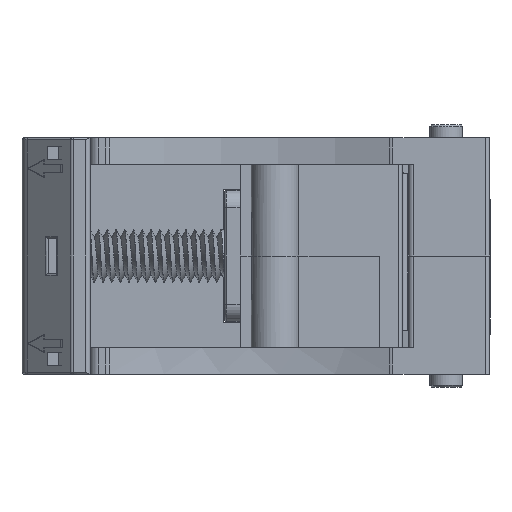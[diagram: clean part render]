
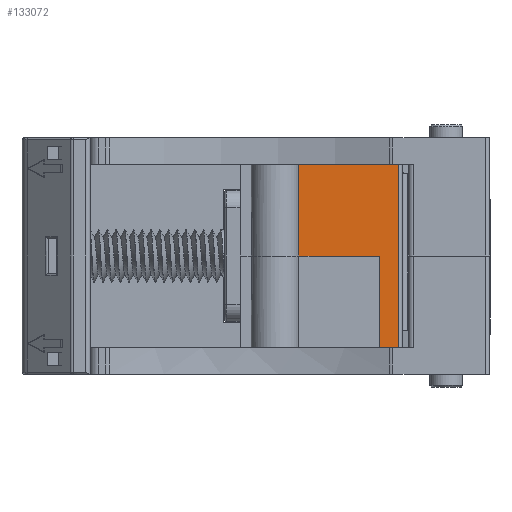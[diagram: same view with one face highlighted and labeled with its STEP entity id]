
A CAD part, left-side view. The second image highlights one B-rep face of the part: STEP entity #133072.
In plain terms, the highlighted planar face has unit normal (-1, 0, 0).
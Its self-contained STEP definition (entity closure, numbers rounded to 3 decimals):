
#133072 = ADVANCED_FACE('',(#133073),#133087,.T.);
#133073 = FACE_BOUND('',#133074,.T.);
#133074 = EDGE_LOOP('',(#133075,#133098,#133114,#133130,#133146,#133162,
    #133178,#133194));
#133075 = ORIENTED_EDGE('',*,*,#133076,.F.);
#133076 = EDGE_CURVE('',#133077,#133079,#133081,.T.);
#133077 = VERTEX_POINT('',#133078);
#133078 = CARTESIAN_POINT('',(-37.411,-0.175,109.5)
  );
#133079 = VERTEX_POINT('',#133080);
#133080 = CARTESIAN_POINT('',(-37.411,-0.175,121.5)
  );
#133081 = SURFACE_CURVE('',#133082,(#133086),.PCURVE_S1.);
#133082 = LINE('',#133083,#133084);
#133083 = CARTESIAN_POINT('',(-37.411,-0.175,109.5)
  );
#133084 = VECTOR('',#133085,1.);
#133085 = DIRECTION('',(0.,0.,1.));
#133086 = PCURVE('',#133087,#133092);
#133087 = PLANE('',#133088);
#133088 = AXIS2_PLACEMENT_3D('',#133089,#133090,#133091);
#133089 = CARTESIAN_POINT('',(-37.411,3.179,109.5)
  );
#133090 = DIRECTION('',(-1.,0.,0.));
#133091 = DIRECTION('',(0.,-1.,0.));
#133092 = DEFINITIONAL_REPRESENTATION('',(#133093),#133097);
#133093 = LINE('',#133094,#133095);
#133094 = CARTESIAN_POINT('',(3.354,0.));
#133095 = VECTOR('',#133096,1.);
#133096 = DIRECTION('',(0.,1.));
#133097 = ( GEOMETRIC_REPRESENTATION_CONTEXT(2) 
PARAMETRIC_REPRESENTATION_CONTEXT() REPRESENTATION_CONTEXT('2D SPACE',''
  ) );
#133098 = ORIENTED_EDGE('',*,*,#133099,.T.);
#133099 = EDGE_CURVE('',#133077,#133100,#133102,.T.);
#133100 = VERTEX_POINT('',#133101);
#133101 = CARTESIAN_POINT('',(-37.411,-9.421,109.5)
  );
#133102 = SURFACE_CURVE('',#133103,(#133107),.PCURVE_S1.);
#133103 = LINE('',#133104,#133105);
#133104 = CARTESIAN_POINT('',(-37.411,3.179,109.5)
  );
#133105 = VECTOR('',#133106,1.);
#133106 = DIRECTION('',(0.,-1.,0.));
#133107 = PCURVE('',#133087,#133108);
#133108 = DEFINITIONAL_REPRESENTATION('',(#133109),#133113);
#133109 = LINE('',#133110,#133111);
#133110 = CARTESIAN_POINT('',(0.,0.));
#133111 = VECTOR('',#133112,1.);
#133112 = DIRECTION('',(1.,0.));
#133113 = ( GEOMETRIC_REPRESENTATION_CONTEXT(2) 
PARAMETRIC_REPRESENTATION_CONTEXT() REPRESENTATION_CONTEXT('2D SPACE',''
  ) );
#133114 = ORIENTED_EDGE('',*,*,#133115,.F.);
#133115 = EDGE_CURVE('',#133116,#133100,#133118,.T.);
#133116 = VERTEX_POINT('',#133117);
#133117 = CARTESIAN_POINT('',(-37.411,-9.421,
    98.));
#133118 = SURFACE_CURVE('',#133119,(#133123),.PCURVE_S1.);
#133119 = LINE('',#133120,#133121);
#133120 = CARTESIAN_POINT('',(-37.411,-9.421,97.5)
  );
#133121 = VECTOR('',#133122,1.);
#133122 = DIRECTION('',(0.,0.,1.));
#133123 = PCURVE('',#133087,#133124);
#133124 = DEFINITIONAL_REPRESENTATION('',(#133125),#133129);
#133125 = LINE('',#133126,#133127);
#133126 = CARTESIAN_POINT('',(12.6,-12.));
#133127 = VECTOR('',#133128,1.);
#133128 = DIRECTION('',(0.,1.));
#133129 = ( GEOMETRIC_REPRESENTATION_CONTEXT(2) 
PARAMETRIC_REPRESENTATION_CONTEXT() REPRESENTATION_CONTEXT('2D SPACE',''
  ) );
#133130 = ORIENTED_EDGE('',*,*,#133131,.T.);
#133131 = EDGE_CURVE('',#133116,#133132,#133134,.T.);
#133132 = VERTEX_POINT('',#133133);
#133133 = CARTESIAN_POINT('',(-37.411,-11.521,
    98.));
#133134 = SURFACE_CURVE('',#133135,(#133139),.PCURVE_S1.);
#133135 = LINE('',#133136,#133137);
#133136 = CARTESIAN_POINT('',(-37.411,3.179,
    98.));
#133137 = VECTOR('',#133138,1.);
#133138 = DIRECTION('',(0.,-1.,0.));
#133139 = PCURVE('',#133087,#133140);
#133140 = DEFINITIONAL_REPRESENTATION('',(#133141),#133145);
#133141 = LINE('',#133142,#133143);
#133142 = CARTESIAN_POINT('',(0.,-11.5));
#133143 = VECTOR('',#133144,1.);
#133144 = DIRECTION('',(1.,0.));
#133145 = ( GEOMETRIC_REPRESENTATION_CONTEXT(2) 
PARAMETRIC_REPRESENTATION_CONTEXT() REPRESENTATION_CONTEXT('2D SPACE',''
  ) );
#133146 = ORIENTED_EDGE('',*,*,#133147,.T.);
#133147 = EDGE_CURVE('',#133132,#133148,#133150,.T.);
#133148 = VERTEX_POINT('',#133149);
#133149 = CARTESIAN_POINT('',(-37.411,-11.521,120.)
  );
#133150 = SURFACE_CURVE('',#133151,(#133155),.PCURVE_S1.);
#133151 = LINE('',#133152,#133153);
#133152 = CARTESIAN_POINT('',(-37.411,-11.521,97.5)
  );
#133153 = VECTOR('',#133154,1.);
#133154 = DIRECTION('',(0.,0.,1.));
#133155 = PCURVE('',#133087,#133156);
#133156 = DEFINITIONAL_REPRESENTATION('',(#133157),#133161);
#133157 = LINE('',#133158,#133159);
#133158 = CARTESIAN_POINT('',(14.7,-12.));
#133159 = VECTOR('',#133160,1.);
#133160 = DIRECTION('',(0.,1.));
#133161 = ( GEOMETRIC_REPRESENTATION_CONTEXT(2) 
PARAMETRIC_REPRESENTATION_CONTEXT() REPRESENTATION_CONTEXT('2D SPACE',''
  ) );
#133162 = ORIENTED_EDGE('',*,*,#133163,.F.);
#133163 = EDGE_CURVE('',#133164,#133148,#133166,.T.);
#133164 = VERTEX_POINT('',#133165);
#133165 = CARTESIAN_POINT('',(-37.411,-10.521,120.)
  );
#133166 = SURFACE_CURVE('',#133167,(#133171),.PCURVE_S1.);
#133167 = LINE('',#133168,#133169);
#133168 = CARTESIAN_POINT('',(-37.411,3.179,120.)
  );
#133169 = VECTOR('',#133170,1.);
#133170 = DIRECTION('',(0.,-1.,0.));
#133171 = PCURVE('',#133087,#133172);
#133172 = DEFINITIONAL_REPRESENTATION('',(#133173),#133177);
#133173 = LINE('',#133174,#133175);
#133174 = CARTESIAN_POINT('',(0.,10.5));
#133175 = VECTOR('',#133176,1.);
#133176 = DIRECTION('',(1.,0.));
#133177 = ( GEOMETRIC_REPRESENTATION_CONTEXT(2) 
PARAMETRIC_REPRESENTATION_CONTEXT() REPRESENTATION_CONTEXT('2D SPACE',''
  ) );
#133178 = ORIENTED_EDGE('',*,*,#133179,.T.);
#133179 = EDGE_CURVE('',#133164,#133180,#133182,.T.);
#133180 = VERTEX_POINT('',#133181);
#133181 = CARTESIAN_POINT('',(-37.411,-10.521,121.5)
  );
#133182 = SURFACE_CURVE('',#133183,(#133187),.PCURVE_S1.);
#133183 = LINE('',#133184,#133185);
#133184 = CARTESIAN_POINT('',(-37.411,-10.521,120.)
  );
#133185 = VECTOR('',#133186,1.);
#133186 = DIRECTION('',(0.,0.,1.));
#133187 = PCURVE('',#133087,#133188);
#133188 = DEFINITIONAL_REPRESENTATION('',(#133189),#133193);
#133189 = LINE('',#133190,#133191);
#133190 = CARTESIAN_POINT('',(13.7,10.5));
#133191 = VECTOR('',#133192,1.);
#133192 = DIRECTION('',(0.,1.));
#133193 = ( GEOMETRIC_REPRESENTATION_CONTEXT(2) 
PARAMETRIC_REPRESENTATION_CONTEXT() REPRESENTATION_CONTEXT('2D SPACE',''
  ) );
#133194 = ORIENTED_EDGE('',*,*,#133195,.F.);
#133195 = EDGE_CURVE('',#133079,#133180,#133196,.T.);
#133196 = SURFACE_CURVE('',#133197,(#133201),.PCURVE_S1.);
#133197 = LINE('',#133198,#133199);
#133198 = CARTESIAN_POINT('',(-37.411,3.179,121.5)
  );
#133199 = VECTOR('',#133200,1.);
#133200 = DIRECTION('',(0.,-1.,0.));
#133201 = PCURVE('',#133087,#133202);
#133202 = DEFINITIONAL_REPRESENTATION('',(#133203),#133207);
#133203 = LINE('',#133204,#133205);
#133204 = CARTESIAN_POINT('',(0.,12.));
#133205 = VECTOR('',#133206,1.);
#133206 = DIRECTION('',(1.,0.));
#133207 = ( GEOMETRIC_REPRESENTATION_CONTEXT(2) 
PARAMETRIC_REPRESENTATION_CONTEXT() REPRESENTATION_CONTEXT('2D SPACE',''
  ) );
